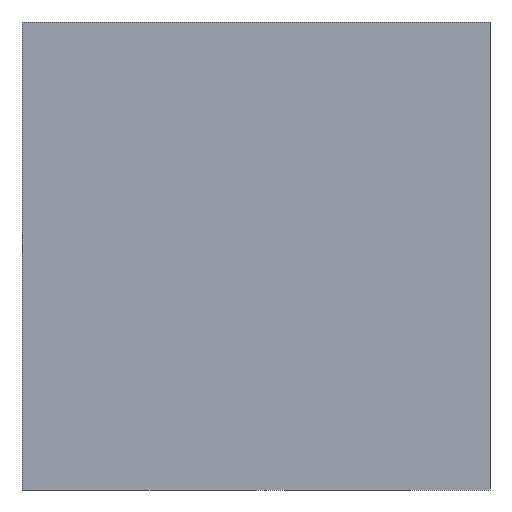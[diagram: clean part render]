
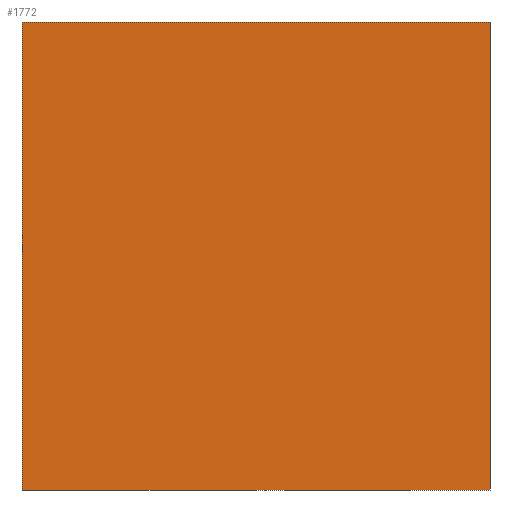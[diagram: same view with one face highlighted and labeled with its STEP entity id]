
A CAD part, left-side view. The second image highlights one B-rep face of the part: STEP entity #1772.
In plain terms, the highlighted planar face has unit normal (-1, 0, 0).
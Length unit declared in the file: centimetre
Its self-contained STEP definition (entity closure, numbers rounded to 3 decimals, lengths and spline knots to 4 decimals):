
#124 = CARTESIAN_POINT ( 'NONE',  ( 0., 0., 1000. ) ) ;
#157 = CARTESIAN_POINT ( 'NONE',  ( 0., 1000., 1000. ) ) ;
#174 = CARTESIAN_POINT ( 'NONE',  ( 0., 1000., 1000. ) ) ;
#195 = CARTESIAN_POINT ( 'NONE',  ( 0., 1000., 0. ) ) ;
#233 = LINE ( 'NONE', #373, #1433 ) ;
#329 = EDGE_LOOP ( 'NONE', ( #625, #1359, #908, #2104 ) ) ;
#340 = VERTEX_POINT ( 'NONE', #530 ) ;
#373 = CARTESIAN_POINT ( 'NONE',  ( 0., 0., 1000. ) ) ;
#404 = DIRECTION ( 'NONE',  ( 0., 0., -1. ) ) ;
#417 = VERTEX_POINT ( 'NONE', #1893 ) ;
#451 = AXIS2_PLACEMENT_3D ( 'NONE', #174, #2027, #905 ) ;
#453 = VECTOR ( 'NONE', #761, 100. ) ;
#522 = DIRECTION ( 'NONE',  ( 0., -1., 0. ) ) ;
#530 = CARTESIAN_POINT ( 'NONE',  ( 0., 1000., 0. ) ) ;
#536 = FACE_OUTER_BOUND ( 'NONE', #329, .T. ) ;
#625 = ORIENTED_EDGE ( 'NONE', *, *, #2341, .T. ) ;
#647 = VECTOR ( 'NONE', #404, 100. ) ;
#701 = CARTESIAN_POINT ( 'NONE',  ( 0., 1000., 1000. ) ) ;
#761 = DIRECTION ( 'NONE',  ( 0., -1., 0. ) ) ;
#881 = LINE ( 'NONE', #701, #2258 ) ;
#890 = EDGE_CURVE ( 'NONE', #1483, #417, #233, .T. ) ;
#905 = DIRECTION ( 'NONE',  ( 0., 0., -1. ) ) ;
#908 = ORIENTED_EDGE ( 'NONE', *, *, #1742, .F. ) ;
#1105 = VERTEX_POINT ( 'NONE', #1968 ) ;
#1277 = PLANE ( 'NONE',  #451 ) ;
#1359 = ORIENTED_EDGE ( 'NONE', *, *, #890, .F. ) ;
#1433 = VECTOR ( 'NONE', #1875, 100. ) ;
#1483 = VERTEX_POINT ( 'NONE', #124 ) ;
#1742 = EDGE_CURVE ( 'NONE', #1105, #1483, #881, .T. ) ;
#1772 = ADVANCED_FACE ( 'NONE', ( #536 ), #1277, .F. ) ;
#1875 = DIRECTION ( 'NONE',  ( 0., 0., -1. ) ) ;
#1880 = LINE ( 'NONE', #195, #453 ) ;
#1890 = LINE ( 'NONE', #157, #647 ) ;
#1893 = CARTESIAN_POINT ( 'NONE',  ( 0., 0., 0. ) ) ;
#1968 = CARTESIAN_POINT ( 'NONE',  ( 0., 1000., 1000. ) ) ;
#2027 = DIRECTION ( 'NONE',  ( 1., 0., 0. ) ) ;
#2104 = ORIENTED_EDGE ( 'NONE', *, *, #2353, .T. ) ;
#2258 = VECTOR ( 'NONE', #522, 100. ) ;
#2341 = EDGE_CURVE ( 'NONE', #340, #417, #1880, .T. ) ;
#2353 = EDGE_CURVE ( 'NONE', #1105, #340, #1890, .T. ) ;
